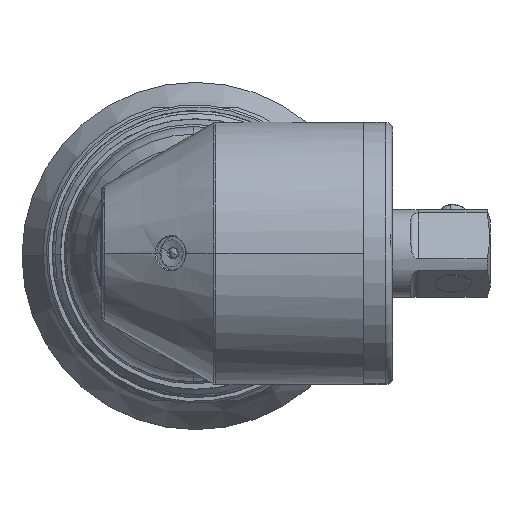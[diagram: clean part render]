
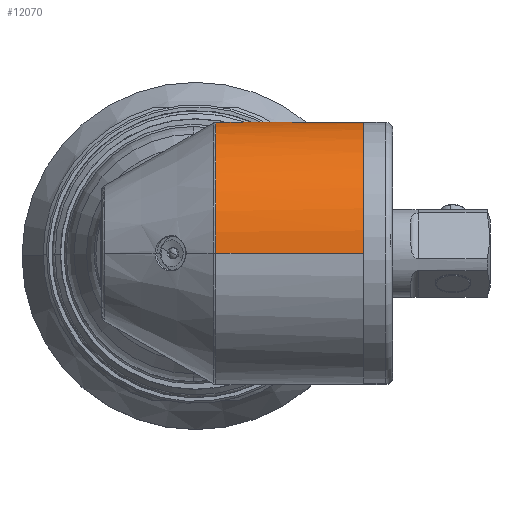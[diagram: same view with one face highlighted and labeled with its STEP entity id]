
A CAD part, top view. The second image highlights one B-rep face of the part: STEP entity #12070.
In plain terms, the highlighted cylindrical face has radius 17.78 mm (diameter 35.56 mm), a partial arc.
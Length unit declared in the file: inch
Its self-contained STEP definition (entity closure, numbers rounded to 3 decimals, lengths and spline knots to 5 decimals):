
#2310 = EDGE_CURVE ( 'NONE', #55023, #46677, #32858, .T. ) ;
#2895 = CARTESIAN_POINT ( 'NONE',  ( 0.895, 0., 1.22 ) ) ;
#3036 = CARTESIAN_POINT ( 'NONE',  ( -0.61, 0., 2.62 ) ) ;
#3067 = CARTESIAN_POINT ( 'NONE',  ( 0.51148, 0.25469, 1.2678 ) ) ;
#3825 = AXIS2_PLACEMENT_3D ( 'NONE', #30667, #30520, #30495 ) ;
#4683 = CARTESIAN_POINT ( 'NONE',  ( 0.58, 0., 1.22 ) ) ;
#5284 = AXIS2_PLACEMENT_3D ( 'NONE', #15754, #31586, #52048 ) ;
#5424 = B_SPLINE_CURVE_WITH_KNOTS ( 'NONE', 3,
 ( #4683, #51418, #66106, #45075, #50716, #73247, #49755, #50743, #9779, #3067, #73012, #67970, #61718, #56005, #55542, #27645, #32225, #32687, #33460, #61956, #67202, #66470, #38036, #38811 ),
 .UNSPECIFIED., .F., .F.,
 ( 4, 2, 2, 2, 2, 2, 2, 2, 2, 2, 2, 4 ),
 ( 0.02088, 0.02218, 0.02349, 0.02611, 0.02741, 0.02872, 0.03134, 0.03264, 0.03395, 0.03657, 0.03918, 0.0418 ),
 .UNSPECIFIED. ) ;
#6120 = EDGE_CURVE ( 'NONE', #55023, #33499, #5424, .T. ) ;
#6687 = ORIENTED_EDGE ( 'NONE', *, *, #56676, .T. ) ;
#6719 = CARTESIAN_POINT ( 'NONE',  ( 0.10804, 0., 1.92 ) ) ;
#8961 = DIRECTION ( 'NONE',  ( 1., 0., 0. ) ) ;
#9779 = CARTESIAN_POINT ( 'NONE',  ( 0.52677, 0.22613, 1.25736 ) ) ;
#12070 = ADVANCED_FACE ( 'NONE', ( #58822 ), #59101, .T. ) ;
#12715 = DIRECTION ( 'NONE',  ( 0., 0., 1. ) ) ;
#15754 = CARTESIAN_POINT ( 'NONE',  ( -0.61, 0., 1.92 ) ) ;
#16654 = EDGE_CURVE ( 'NONE', #68743, #46677, #58042, .T. ) ;
#27645 = CARTESIAN_POINT ( 'NONE',  ( 0.3911, 0.3988, 1.34458 ) ) ;
#30495 = DIRECTION ( 'NONE',  ( 0., 0., -1. ) ) ;
#30520 = DIRECTION ( 'NONE',  ( -1., 0., 0. ) ) ;
#30667 = CARTESIAN_POINT ( 'NONE',  ( 0.895, 0., 1.92 ) ) ;
#31586 = DIRECTION ( 'NONE',  ( 1., 0., 0. ) ) ;
#32225 = CARTESIAN_POINT ( 'NONE',  ( 0.37921, 0.40867, 1.35156 ) ) ;
#32687 = CARTESIAN_POINT ( 'NONE',  ( 0.34242, 0.43681, 1.37251 ) ) ;
#32858 = LINE ( 'NONE', #38727, #45669 ) ;
#33460 = CARTESIAN_POINT ( 'NONE',  ( 0.31644, 0.45363, 1.3865 ) ) ;
#33499 = VERTEX_POINT ( 'NONE', #56793 ) ;
#36121 = VECTOR ( 'NONE', #8961, 39.37008 ) ;
#37188 = ORIENTED_EDGE ( 'NONE', *, *, #68864, .T. ) ;
#38036 = CARTESIAN_POINT ( 'NONE',  ( 0.14105, 0.52623, 1.45829 ) ) ;
#38727 = CARTESIAN_POINT ( 'NONE',  ( -0.61, 0., 1.22 ) ) ;
#38811 = CARTESIAN_POINT ( 'NONE',  ( 0.10804, 0.53243, 1.46556 ) ) ;
#40311 = EDGE_LOOP ( 'NONE', ( #71470, #41004, #37188, #6687, #50129 ) ) ;
#41004 = ORIENTED_EDGE ( 'NONE', *, *, #6120, .T. ) ;
#45075 = CARTESIAN_POINT ( 'NONE',  ( 0.5757, 0.06764, 1.22307 ) ) ;
#45669 = VECTOR ( 'NONE', #57869, 39.37008 ) ;
#46677 = VERTEX_POINT ( 'NONE', #2895 ) ;
#47493 = DIRECTION ( 'NONE',  ( 1., 0., 0. ) ) ;
#49755 = CARTESIAN_POINT ( 'NONE',  ( 0.55301, 0.1657, 1.23916 ) ) ;
#50129 = ORIENTED_EDGE ( 'NONE', *, *, #16654, .T. ) ;
#50716 = CARTESIAN_POINT ( 'NONE',  ( 0.57309, 0.08462, 1.22493 ) ) ;
#50743 = CARTESIAN_POINT ( 'NONE',  ( 0.53389, 0.21122, 1.25244 ) ) ;
#51418 = CARTESIAN_POINT ( 'NONE',  ( 0.58, 0.01689, 1.22 ) ) ;
#51557 = LINE ( 'NONE', #3036, #36121 ) ;
#52048 = DIRECTION ( 'NONE',  ( 0., 0., 1. ) ) ;
#55023 = VERTEX_POINT ( 'NONE', #70153 ) ;
#55542 = CARTESIAN_POINT ( 'NONE',  ( 0.41416, 0.37802, 1.33071 ) ) ;
#56005 = CARTESIAN_POINT ( 'NONE',  ( 0.42537, 0.36706, 1.32381 ) ) ;
#56676 = EDGE_CURVE ( 'NONE', #66615, #68743, #51557, .T. ) ;
#56793 = CARTESIAN_POINT ( 'NONE',  ( 0.10804, 0.53243, 1.46556 ) ) ;
#57316 = CARTESIAN_POINT ( 'NONE',  ( 0.895, 0., 2.62 ) ) ;
#57418 = CARTESIAN_POINT ( 'NONE',  ( 0.10804, 0., 2.62 ) ) ;
#57869 = DIRECTION ( 'NONE',  ( 1., 0., 0. ) ) ;
#58042 = CIRCLE ( 'NONE', #3825, 0.7 ) ;
#58822 = FACE_OUTER_BOUND ( 'NONE', #40311, .T. ) ;
#59101 = CYLINDRICAL_SURFACE ( 'NONE', #5284, 0.7 ) ;
#61718 = CARTESIAN_POINT ( 'NONE',  ( 0.4576, 0.33277, 1.30358 ) ) ;
#61956 = CARTESIAN_POINT ( 'NONE',  ( 0.26113, 0.48355, 1.41345 ) ) ;
#64145 = CIRCLE ( 'NONE', #66313, 0.7 ) ;
#66106 = CARTESIAN_POINT ( 'NONE',  ( 0.57915, 0.03379, 1.22061 ) ) ;
#66313 = AXIS2_PLACEMENT_3D ( 'NONE', #6719, #47493, #12715 ) ;
#66470 = CARTESIAN_POINT ( 'NONE',  ( 0.17234, 0.51767, 1.44856 ) ) ;
#66615 = VERTEX_POINT ( 'NONE', #57418 ) ;
#67202 = CARTESIAN_POINT ( 'NONE',  ( 0.23237, 0.49634, 1.42615 ) ) ;
#67970 = CARTESIAN_POINT ( 'NONE',  ( 0.4771, 0.3082, 1.29083 ) ) ;
#68743 = VERTEX_POINT ( 'NONE', #57316 ) ;
#68864 = EDGE_CURVE ( 'NONE', #33499, #66615, #64145, .T. ) ;
#70153 = CARTESIAN_POINT ( 'NONE',  ( 0.58, 0., 1.22 ) ) ;
#71470 = ORIENTED_EDGE ( 'NONE', *, *, #2310, .F. ) ;
#73012 = CARTESIAN_POINT ( 'NONE',  ( 0.50327, 0.26843, 1.27335 ) ) ;
#73247 = CARTESIAN_POINT ( 'NONE',  ( 0.56291, 0.1341, 1.23216 ) ) ;
